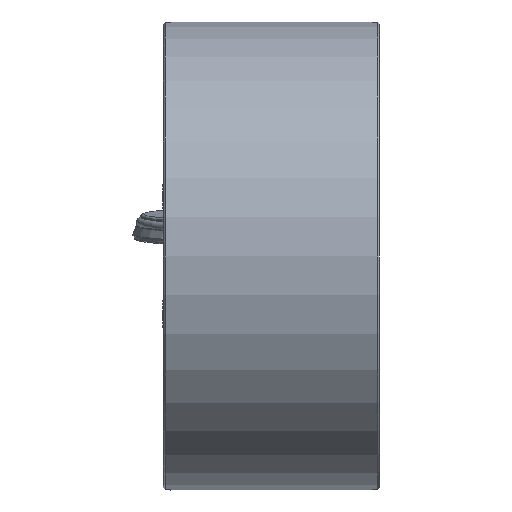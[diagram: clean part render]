
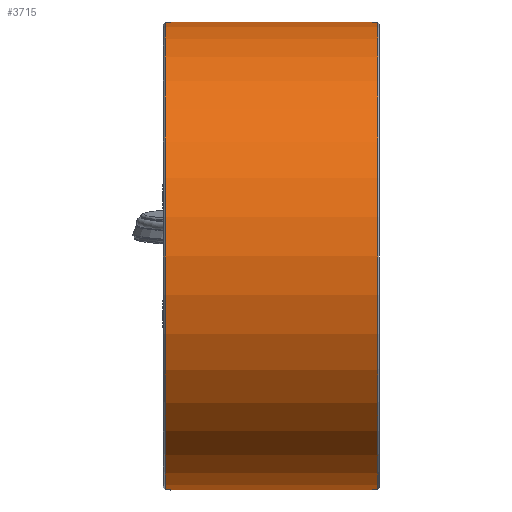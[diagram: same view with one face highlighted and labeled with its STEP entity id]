
A CAD part, left-side view. The second image highlights one B-rep face of the part: STEP entity #3715.
In plain terms, the highlighted cylindrical face has radius 65 mm (diameter 130 mm), a full revolution.
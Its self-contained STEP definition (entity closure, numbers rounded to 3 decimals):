
#2878=FACE_BOUND('',#4917,.T.);
#2879=FACE_BOUND('',#4918,.T.);
#2880=FACE_BOUND('',#4919,.T.);
#3715=ADVANCED_FACE('',(#2878,#2879,#2880),#3977,.T.);
#3977=CYLINDRICAL_SURFACE('',#11027,65.);
#4917=EDGE_LOOP('',(#7586,#7587,#7588,#7589,#7590,#7591,#7592,#7593));
#4918=EDGE_LOOP('',(#7594,#7595,#7596,#7597));
#4919=EDGE_LOOP('',(#7598,#7599,#7600,#7601,#7602,#7603,#7604,#7605));
#5531=LINE('',#16350,#6002);
#5532=LINE('',#16355,#6003);
#5533=LINE('',#16359,#6004);
#5534=LINE('',#16363,#6005);
#5535=LINE('',#16366,#6006);
#5536=LINE('',#16371,#6007);
#5537=LINE('',#16377,#6008);
#5538=LINE('',#16378,#6009);
#5539=LINE('',#16382,#6010);
#5540=LINE('',#16386,#6011);
#6002=VECTOR('',#13158,1.);
#6003=VECTOR('',#13161,1.);
#6004=VECTOR('',#13164,1.);
#6005=VECTOR('',#13167,1.);
#6006=VECTOR('',#13170,1.);
#6007=VECTOR('',#13173,1.);
#6008=VECTOR('',#13178,1.);
#6009=VECTOR('',#13179,1.);
#6010=VECTOR('',#13182,1.);
#6011=VECTOR('',#13185,1.);
#7586=ORIENTED_EDGE('',*,*,#9629,.F.);
#7587=ORIENTED_EDGE('',*,*,#9630,.T.);
#7588=ORIENTED_EDGE('',*,*,#9631,.T.);
#7589=ORIENTED_EDGE('',*,*,#9632,.T.);
#7590=ORIENTED_EDGE('',*,*,#9633,.F.);
#7591=ORIENTED_EDGE('',*,*,#9634,.F.);
#7592=ORIENTED_EDGE('',*,*,#9635,.T.);
#7593=ORIENTED_EDGE('',*,*,#9636,.T.);
#7594=ORIENTED_EDGE('',*,*,#9637,.T.);
#7595=ORIENTED_EDGE('',*,*,#9638,.T.);
#7596=ORIENTED_EDGE('',*,*,#9639,.T.);
#7597=ORIENTED_EDGE('',*,*,#9640,.T.);
#7598=ORIENTED_EDGE('',*,*,#9641,.F.);
#7599=ORIENTED_EDGE('',*,*,#9642,.T.);
#7600=ORIENTED_EDGE('',*,*,#9604,.F.);
#7601=ORIENTED_EDGE('',*,*,#9643,.F.);
#7602=ORIENTED_EDGE('',*,*,#9644,.T.);
#7603=ORIENTED_EDGE('',*,*,#9645,.F.);
#7604=ORIENTED_EDGE('',*,*,#9646,.F.);
#7605=ORIENTED_EDGE('',*,*,#9647,.T.);
#8649=VERTEX_POINT('',#16288);
#8650=VERTEX_POINT('',#16289);
#8671=VERTEX_POINT('',#16351);
#8672=VERTEX_POINT('',#16352);
#8673=VERTEX_POINT('',#16354);
#8674=VERTEX_POINT('',#16356);
#8675=VERTEX_POINT('',#16358);
#8676=VERTEX_POINT('',#16360);
#8677=VERTEX_POINT('',#16362);
#8678=VERTEX_POINT('',#16364);
#8679=VERTEX_POINT('',#16367);
#8680=VERTEX_POINT('',#16368);
#8681=VERTEX_POINT('',#16370);
#8682=VERTEX_POINT('',#16372);
#8683=VERTEX_POINT('',#16375);
#8684=VERTEX_POINT('',#16376);
#8685=VERTEX_POINT('',#16379);
#8686=VERTEX_POINT('',#16381);
#8687=VERTEX_POINT('',#16383);
#8688=VERTEX_POINT('',#16385);
#9604=EDGE_CURVE('',#8649,#8650,#10155,.T.);
#9629=EDGE_CURVE('',#8671,#8672,#5531,.T.);
#9630=EDGE_CURVE('',#8671,#8673,#10172,.T.);
#9631=EDGE_CURVE('',#8673,#8674,#5532,.T.);
#9632=EDGE_CURVE('',#8674,#8675,#10173,.T.);
#9633=EDGE_CURVE('',#8676,#8675,#5533,.T.);
#9634=EDGE_CURVE('',#8677,#8676,#10174,.T.);
#9635=EDGE_CURVE('',#8677,#8678,#5534,.T.);
#9636=EDGE_CURVE('',#8678,#8672,#10175,.T.);
#9637=EDGE_CURVE('',#8679,#8680,#5535,.T.);
#9638=EDGE_CURVE('',#8680,#8681,#10176,.T.);
#9639=EDGE_CURVE('',#8681,#8682,#5536,.T.);
#9640=EDGE_CURVE('',#8682,#8679,#10177,.T.);
#9641=EDGE_CURVE('',#8683,#8684,#10178,.T.);
#9642=EDGE_CURVE('',#8683,#8650,#5537,.T.);
#9643=EDGE_CURVE('',#8685,#8649,#5538,.T.);
#9644=EDGE_CURVE('',#8685,#8686,#10179,.T.);
#9645=EDGE_CURVE('',#8687,#8686,#5539,.T.);
#9646=EDGE_CURVE('',#8688,#8687,#10180,.T.);
#9647=EDGE_CURVE('',#8688,#8684,#5540,.T.);
#10155=CIRCLE('',#10997,65.);
#10172=CIRCLE('',#11018,65.);
#10173=CIRCLE('',#11019,65.);
#10174=CIRCLE('',#11020,65.);
#10175=CIRCLE('',#11021,65.);
#10176=CIRCLE('',#11022,65.);
#10177=CIRCLE('',#11023,65.);
#10178=CIRCLE('',#11024,65.);
#10179=CIRCLE('',#11025,65.);
#10180=CIRCLE('',#11026,65.);
#10997=AXIS2_PLACEMENT_3D('',#16287,#13112,#13113);
#11018=AXIS2_PLACEMENT_3D('',#16353,#13159,#13160);
#11019=AXIS2_PLACEMENT_3D('',#16357,#13162,#13163);
#11020=AXIS2_PLACEMENT_3D('',#16361,#13165,#13166);
#11021=AXIS2_PLACEMENT_3D('',#16365,#13168,#13169);
#11022=AXIS2_PLACEMENT_3D('',#16369,#13171,#13172);
#11023=AXIS2_PLACEMENT_3D('',#16373,#13174,#13175);
#11024=AXIS2_PLACEMENT_3D('',#16374,#13176,#13177);
#11025=AXIS2_PLACEMENT_3D('',#16380,#13180,#13181);
#11026=AXIS2_PLACEMENT_3D('',#16384,#13183,#13184);
#11027=AXIS2_PLACEMENT_3D('',#16387,#13186,#13187);
#13112=DIRECTION('',(-1.,0.,0.));
#13113=DIRECTION('',(0.,0.,1.));
#13158=DIRECTION('',(1.,0.,0.));
#13159=DIRECTION('',(-1.,0.,0.));
#13160=DIRECTION('',(0.,0.,1.));
#13161=DIRECTION('',(1.,0.,0.));
#13162=DIRECTION('',(-1.,0.,0.));
#13163=DIRECTION('',(0.,0.,1.));
#13164=DIRECTION('',(1.,0.,0.));
#13165=DIRECTION('',(1.,0.,0.));
#13166=DIRECTION('',(0.,0.,1.));
#13167=DIRECTION('',(1.,0.,0.));
#13168=DIRECTION('',(-1.,0.,0.));
#13169=DIRECTION('',(0.,0.,1.));
#13170=DIRECTION('',(1.,0.,0.));
#13171=DIRECTION('',(1.,0.,0.));
#13172=DIRECTION('',(0.,0.,-1.));
#13173=DIRECTION('',(-1.,0.,0.));
#13174=DIRECTION('',(-1.,0.,0.));
#13175=DIRECTION('',(0.,0.,1.));
#13176=DIRECTION('',(-1.,0.,0.));
#13177=DIRECTION('',(0.,0.,1.));
#13178=DIRECTION('',(-1.,0.,0.));
#13179=DIRECTION('',(-1.,0.,0.));
#13180=DIRECTION('',(1.,0.,0.));
#13181=DIRECTION('',(0.,0.,-1.));
#13182=DIRECTION('',(1.,0.,0.));
#13183=DIRECTION('',(-1.,0.,0.));
#13184=DIRECTION('',(0.,0.,1.));
#13185=DIRECTION('',(1.,0.,0.));
#13186=DIRECTION('',(-1.,0.,0.));
#13187=DIRECTION('',(0.,0.,1.));
#16287=CARTESIAN_POINT('',(0.5,0.,0.));
#16288=CARTESIAN_POINT('',(0.5,3.,64.931));
#16289=CARTESIAN_POINT('',(0.5,3.,-64.931));
#16350=CARTESIAN_POINT('',(58.,3.,-64.931));
#16351=CARTESIAN_POINT('',(58.,3.,-64.931));
#16352=CARTESIAN_POINT('',(59.5,3.,-64.931));
#16353=CARTESIAN_POINT('',(58.,0.,0.));
#16354=CARTESIAN_POINT('',(58.,-3.,-64.931));
#16355=CARTESIAN_POINT('',(58.,-3.,-64.931));
#16356=CARTESIAN_POINT('',(59.5,-3.,-64.931));
#16357=CARTESIAN_POINT('',(59.5,0.,0.));
#16358=CARTESIAN_POINT('',(59.5,-3.,64.931));
#16359=CARTESIAN_POINT('',(58.,-3.,64.931));
#16360=CARTESIAN_POINT('',(58.,-3.,64.931));
#16361=CARTESIAN_POINT('',(58.,0.,0.));
#16362=CARTESIAN_POINT('',(58.,3.,64.931));
#16363=CARTESIAN_POINT('',(58.,3.,64.931));
#16364=CARTESIAN_POINT('',(59.5,3.,64.931));
#16365=CARTESIAN_POINT('',(59.5,0.,0.));
#16366=CARTESIAN_POINT('',(0.,52.5,-38.324));
#16367=CARTESIAN_POINT('',(17.97,52.5,-38.324));
#16368=CARTESIAN_POINT('',(52.03,52.5,-38.324));
#16369=CARTESIAN_POINT('',(52.03,0.,0.));
#16370=CARTESIAN_POINT('',(52.03,52.5,38.324));
#16371=CARTESIAN_POINT('',(0.,52.5,38.324));
#16372=CARTESIAN_POINT('',(17.97,52.5,38.324));
#16373=CARTESIAN_POINT('',(17.97,0.,0.));
#16374=CARTESIAN_POINT('',(2.,0.,0.));
#16375=CARTESIAN_POINT('',(2.,3.,-64.931));
#16376=CARTESIAN_POINT('',(2.,-3.,-64.931));
#16377=CARTESIAN_POINT('',(0.,3.,-64.931));
#16378=CARTESIAN_POINT('',(0.,3.,64.931));
#16379=CARTESIAN_POINT('',(2.,3.,64.931));
#16380=CARTESIAN_POINT('',(2.,0.,0.));
#16381=CARTESIAN_POINT('',(2.,-3.,64.931));
#16382=CARTESIAN_POINT('',(0.,-3.,64.931));
#16383=CARTESIAN_POINT('',(0.5,-3.,64.931));
#16384=CARTESIAN_POINT('',(0.5,0.,0.));
#16385=CARTESIAN_POINT('',(0.5,-3.,-64.931));
#16386=CARTESIAN_POINT('',(0.,-3.,-64.931));
#16387=CARTESIAN_POINT('',(0.,0.,0.));
